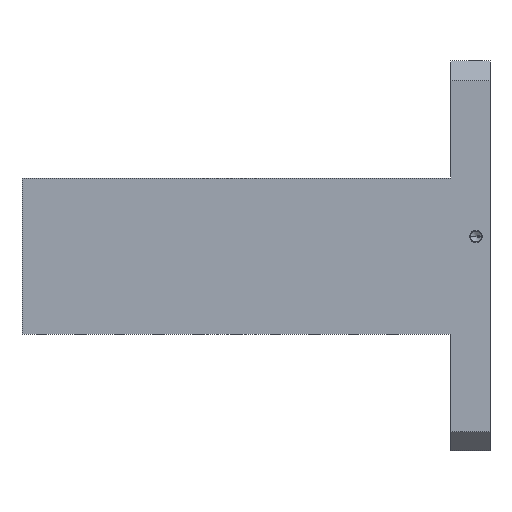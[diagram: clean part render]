
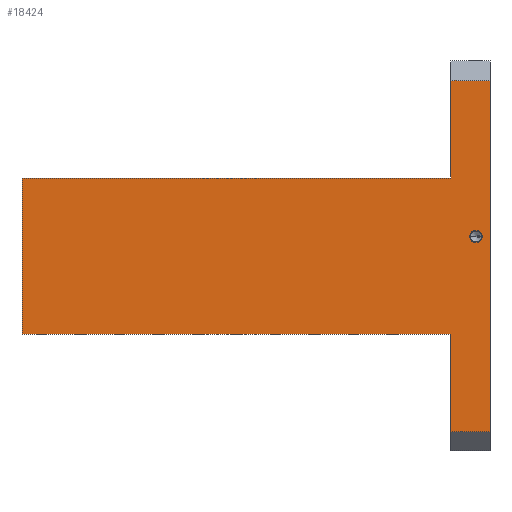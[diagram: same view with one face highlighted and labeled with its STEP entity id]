
A CAD part, left-side view. The second image highlights one B-rep face of the part: STEP entity #18424.
In plain terms, the highlighted planar face has unit normal (-1, 0, 0).
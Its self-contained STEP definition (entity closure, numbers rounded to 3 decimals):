
#65=DIRECTION('',(0.,0.,1.));
#66=VECTOR('',#65,125.);
#67=CARTESIAN_POINT('',(-250.,0.,100.));
#68=LINE('',#67,#66);
#105=DIRECTION('',(0.,0.,1.));
#106=VECTOR('',#105,125.);
#107=CARTESIAN_POINT('',(-250.,0.,-225.));
#108=LINE('',#107,#106);
#173=DIRECTION('',(0.,0.,1.));
#174=VECTOR('',#173,450.);
#175=CARTESIAN_POINT('',(-250.,-50.,-225.));
#176=LINE('',#175,#174);
#269=CARTESIAN_POINT('',(-250.,-32.,25.));
#270=DIRECTION('',(-1.,0.,0.));
#271=DIRECTION('',(0.,1.,0.));
#272=AXIS2_PLACEMENT_3D('',#269,#270,#271);
#274=CARTESIAN_POINT('',(-250.,-32.,25.));
#275=DIRECTION('',(-1.,0.,0.));
#276=DIRECTION('',(0.,-1.,0.));
#277=AXIS2_PLACEMENT_3D('',#274,#275,#276);
#279=DIRECTION('',(0.,-1.,0.));
#280=VECTOR('',#279,50.);
#281=CARTESIAN_POINT('',(-250.,0.,225.));
#282=LINE('',#281,#280);
#283=DIRECTION('',(0.,-1.,0.));
#284=VECTOR('',#283,50.);
#285=CARTESIAN_POINT('',(-250.,0.,-225.));
#286=LINE('',#285,#284);
#287=DIRECTION('',(0.,1.,0.));
#288=VECTOR('',#287,550.);
#289=CARTESIAN_POINT('',(-250.,0.,-100.));
#290=LINE('',#289,#288);
#417=DIRECTION('',(0.,1.,0.));
#418=VECTOR('',#417,550.);
#419=CARTESIAN_POINT('',(-250.,0.,100.));
#420=LINE('',#419,#418);
#1421=DIRECTION('',(0.,0.,1.));
#1422=VECTOR('',#1421,200.);
#1423=CARTESIAN_POINT('',(-250.,550.,-100.));
#1424=LINE('',#1423,#1422);
#14137=CARTESIAN_POINT('',(-250.,550.,-100.));
#14138=CARTESIAN_POINT('',(-250.,550.,100.));
#14139=VERTEX_POINT('',#14137);
#14140=VERTEX_POINT('',#14138);
#14145=CARTESIAN_POINT('',(-250.,0.,100.));
#14147=VERTEX_POINT('',#14145);
#14149=CARTESIAN_POINT('',(-250.,0.,-100.));
#14151=VERTEX_POINT('',#14149);
#14243=CARTESIAN_POINT('',(-250.,-25.,25.));
#14244=CARTESIAN_POINT('',(-250.,-39.,25.));
#14245=VERTEX_POINT('',#14243);
#14246=VERTEX_POINT('',#14244);
#14248=CARTESIAN_POINT('',(-250.,-50.,225.));
#14250=VERTEX_POINT('',#14248);
#14251=CARTESIAN_POINT('',(-250.,0.,225.));
#14252=VERTEX_POINT('',#14251);
#14257=CARTESIAN_POINT('',(-250.,-50.,-225.));
#14258=VERTEX_POINT('',#14257);
#14265=CARTESIAN_POINT('',(-250.,0.,-225.));
#14266=VERTEX_POINT('',#14265);
#18399=CARTESIAN_POINT('',(-250.,0.,-250.));
#18400=DIRECTION('',(-1.,0.,0.));
#18401=DIRECTION('',(0.,0.,1.));
#18402=AXIS2_PLACEMENT_3D('',#18399,#18400,#18401);
#18403=PLANE('',#18402);
#18404=ORIENTED_EDGE('',*,*,#18391,.T.);
#18405=ORIENTED_EDGE('',*,*,#18310,.F.);
#18407=ORIENTED_EDGE('',*,*,#18406,.F.);
#18408=ORIENTED_EDGE('',*,*,#18196,.T.);
#18410=ORIENTED_EDGE('',*,*,#18409,.T.);
#18412=ORIENTED_EDGE('',*,*,#18411,.T.);
#18414=ORIENTED_EDGE('',*,*,#18413,.F.);
#18415=ORIENTED_EDGE('',*,*,#18150,.T.);
#18416=EDGE_LOOP('',(#18404,#18405,#18407,#18408,#18410,#18412,#18414,#18415));
#18417=FACE_OUTER_BOUND('',#18416,.F.);
#18419=ORIENTED_EDGE('',*,*,#18418,.T.);
#18421=ORIENTED_EDGE('',*,*,#18420,.T.);
#18422=EDGE_LOOP('',(#18419,#18421));
#18423=FACE_BOUND('',#18422,.F.);
#18424=ADVANCED_FACE('',(#18417,#18423),#18403,.T.);
#273=CIRCLE('',#272,7.);
#278=CIRCLE('',#277,7.);
#18150=EDGE_CURVE('',#14147,#14252,#68,.T.);
#18196=EDGE_CURVE('',#14266,#14151,#108,.T.);
#18310=EDGE_CURVE('',#14258,#14250,#176,.T.);
#18391=EDGE_CURVE('',#14252,#14250,#282,.T.);
#18406=EDGE_CURVE('',#14266,#14258,#286,.T.);
#18409=EDGE_CURVE('',#14151,#14139,#290,.T.);
#18411=EDGE_CURVE('',#14139,#14140,#1424,.T.);
#18413=EDGE_CURVE('',#14147,#14140,#420,.T.);
#18418=EDGE_CURVE('',#14245,#14246,#273,.T.);
#18420=EDGE_CURVE('',#14246,#14245,#278,.T.);
